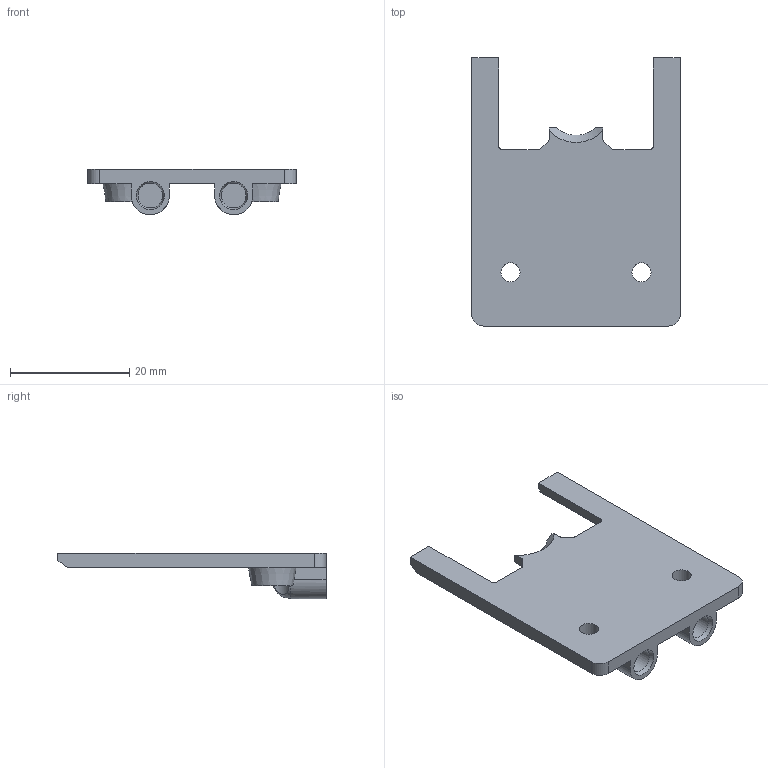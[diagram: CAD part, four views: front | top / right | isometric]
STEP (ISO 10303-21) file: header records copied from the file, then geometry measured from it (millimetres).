
FILE_DESCRIPTION(/* description */ (''),/* implementation_level */ '2;1');
FILE_NAME(/* name */ 'HMG7-Slice-Mosquito-Skirt.step',/* time_stamp */ '2022-11-01T21:30:02-07:00',/* author */ (''),/* organization */ (''),/* preprocessor_version */ 'ST-DEVELOPER v19.2',/* originating_system */ 'Autodesk Translation Framework v11.17.0.187',/* authorisation */ '');
FILE_SCHEMA (('AUTOMOTIVE_DESIGN { 1 0 10303 214 3 1 1 }'));
Length unit declared in the file: millimetre
Products named in the file (4): GEN_7_1.5; Mosquito; Mosquito_Interface_Plate; Mosquito_Skirt
Assembly tree (3 placements, depth 3):
  GEN_7_1.5
    Mosquito
      Mosquito_Interface_Plate
      Mosquito_Skirt
Bounding box: 35 x 45.03 x 7.6 mm (x, y, z)
Volume: 3223.4 mm3; surface area: 3383.8 mm2
Topology: 1 solids, 1 shells, 81 faces, 211 edges, 134 vertices
Faces by surface type: plane 43, cylinder 23, cone 13, bspline 2
Full cylindrical faces by diameter (mm): 3.2 x2, 4.15 x2, 6 x2
Entity records: 2660 total; most frequent: CARTESIAN_POINT 553, DIRECTION 428, ORIENTED_EDGE 422, EDGE_CURVE 211, AXIS2_PLACEMENT_3D 149, VERTEX_POINT 134, LINE 130, VECTOR 130
